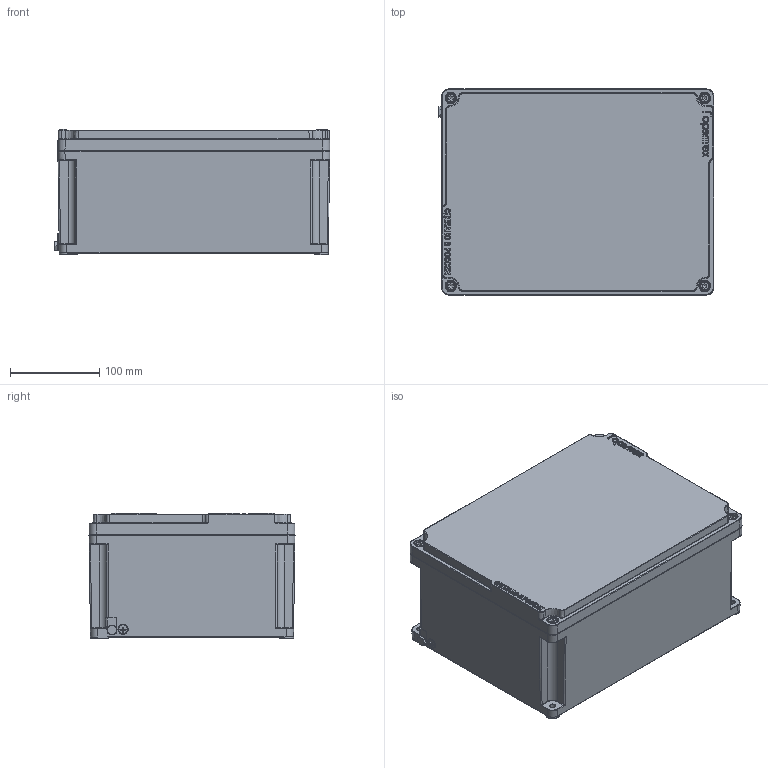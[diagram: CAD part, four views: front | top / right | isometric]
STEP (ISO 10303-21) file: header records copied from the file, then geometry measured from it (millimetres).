
FILE_DESCRIPTION((''),'2;1');
FILE_NAME('\\192.168.5.25\cortem_klient\INVENTOR БАЗА МОДЕЛЕЙ\Актуальная база моделей для отдела продаж\КСРВ\КСРВ302314_М1.stp','2019-04-09T11:29:45',('A.S.Kozlov'),(''),'Autodesk Inventor 2012','Autodesk Inventor 2012','');
FILE_SCHEMA(('CONFIG_CONTROL_DESIGN'));
Length unit declared in the file: millimetre
Products named in the file (1): КСРВ302314_М1_Внешний контур_1
Bounding box: 309.35 x 231.33 x 141 mm (x, y, z)
Surface area: 579216.8 mm2 (no closed solid volume)
Topology: 0 solids, 19 shells, 1824 faces, 4403 edges, 2672 vertices
Faces by surface type: bspline 613, plane 551, cylinder 420, torus 144, cone 83, sphere 13
Full cylindrical faces by diameter (mm): 4.1 x6, 4.567 x1, 4.9 x6, 5 x1, 5.3 x1, 5.459 x2, 6 x6, 6.4 x1, 6.5 x2, 6.7 x1, 8.7 x2, 10 x7, 11.4 x2, 12 x1
Entity records: 80830 total; most frequent: CARTESIAN_POINT 40338, ORIENTED_EDGE 8392, DIRECTION 6888, EDGE_CURVE 4196, VERTEX_POINT 2655, AXIS2_PLACEMENT_3D 2486, EDGE_LOOP 2111, VECTOR 1916
